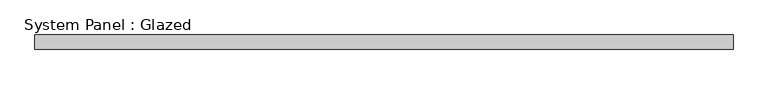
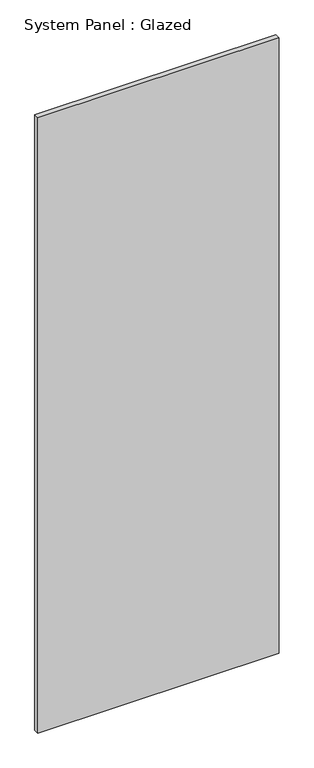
"""IFC4 building model written with IfcOpenShell, lengths in millimetres: plate geometry, System Panel : Glazed."""

from ifc_helpers import new_model, si_unit, origin, origin_with_axes, place, context, project, spatial, polyline, outline, extrude, source, transform, mapped, element, save


def system_panel_glazed_06d969fb(model_context):
    return source(origin(), model_context, "Body", "SweptSolid", [
        extrude(outline(polyline([(604.8481175, -12.5), (-604.8481175, -12.5), (-604.8481175, 12.5), (604.8481175, 12.5), (604.8481175, -12.5)])), origin_with_axes(), (0.0, 0.0, 1.0), 3259.3032525),
    ])


if __name__ == "__main__":
    model = new_model("IFC4")
    model_context = context("Model", 3, world=origin())
    ifc_project = project(units=[si_unit("LENGTHUNIT", "METRE", prefix="MILLI")], contexts=[model_context])
    site = spatial("IfcSite", under=ifc_project)
    building = spatial("IfcBuilding", under=site)
    placement = place(None, origin())
    system_panel_glazed_shape = system_panel_glazed_06d969fb(model_context)
    element("IfcPlate", 1, ObjectType="System Panel : Glazed", at=placement, inside=building, context=model_context, shape_type="MappedRepresentation", body=[
        mapped(system_panel_glazed_shape, transform((0.0, 0.0, 0.0), x_axis=(1.0, 0.0, 0.0), y_axis=(0.0, 1.0, 0.0), z_axis=(0.0, 0.0, 1.0))),
    ])
    save(model, "model.ifc")
